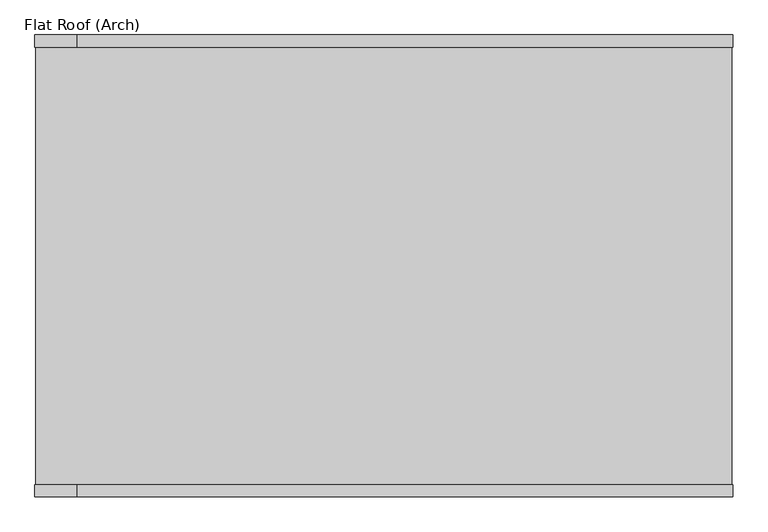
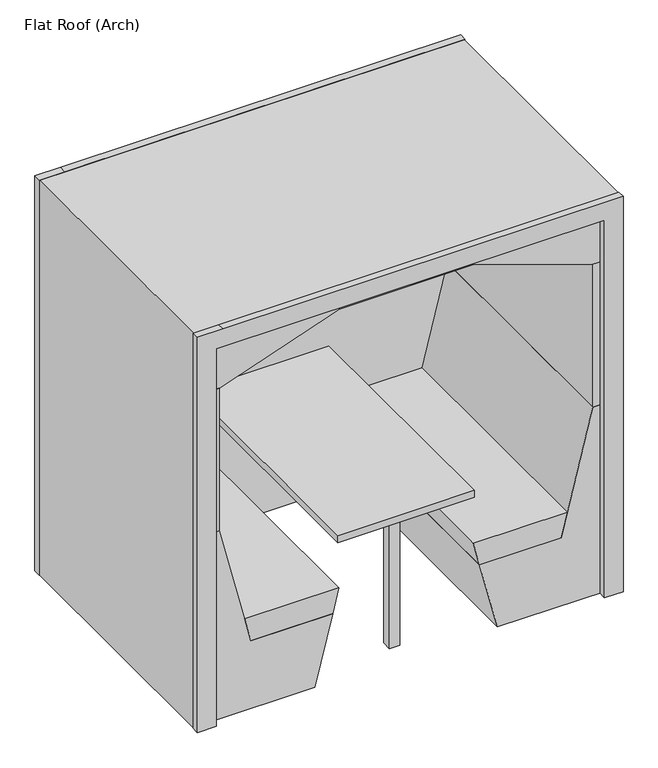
"""IFC4 building model written with IfcOpenShell, lengths in millimetres: furniture geometry, Furniture_WorkPod_Spacestor_RailwayCarriage : Flat Roof (Arch)."""

from ifc_helpers import new_model, si_unit, point, frame, frame_2d, origin, origin_with_axes, place, context, project, spatial, polyline, circle_curve, trimmed, segment, composite_curve, outline, extrude, source, transform, mapped, element, save


def flat_roof_arch_354ff4fe(model_context):
    return source(origin(), model_context, "Body", "SweptSolid", [
        extrude(outline(composite_curve([segment(trimmed(circle_curve(frame_2d((988.5, -1002.0)), 15.0), [point((973.5, -1002.0))], [point((1003.5, -1002.0))], False, "CARTESIAN"), True, "CONTINUOUS"), segment(trimmed(circle_curve(frame_2d((988.5, -1002.0)), 15.0), [point((1003.5, -1002.0))], [point((973.5, -1002.0))], False, "CARTESIAN"), True, "CONTINUOUS")], self_intersect=False)), origin_with_axes(), (0.0, 0.0, 1.0), 15.0),
        extrude(outline(composite_curve([segment(trimmed(circle_curve(frame_2d((-988.5, -1002.0)), 15.0), [point((-1003.5, -1002.0))], [point((-973.5, -1002.0))], False, "CARTESIAN"), True, "CONTINUOUS"), segment(trimmed(circle_curve(frame_2d((-988.5, -1002.0)), 15.0), [point((-973.5, -1002.0))], [point((-1003.5, -1002.0))], False, "CARTESIAN"), True, "CONTINUOUS")], self_intersect=False)), origin_with_axes(), (0.0, 0.0, 1.0), 15.0),
        extrude(outline(composite_curve([segment(trimmed(circle_curve(frame_2d((988.5, -167.0)), 15.0), [point((973.5, -167.0))], [point((1003.5, -167.0))], False, "CARTESIAN"), True, "CONTINUOUS"), segment(trimmed(circle_curve(frame_2d((988.5, -167.0)), 15.0), [point((1003.5, -167.0))], [point((973.5, -167.0))], False, "CARTESIAN"), True, "CONTINUOUS")], self_intersect=False)), origin_with_axes(), (0.0, 0.0, 1.0), 15.0),
        extrude(outline(composite_curve([segment(trimmed(circle_curve(frame_2d((-988.5, -167.0)), 15.0), [point((-1003.5, -167.0))], [point((-973.5, -167.0))], False, "CARTESIAN"), True, "CONTINUOUS"), segment(trimmed(circle_curve(frame_2d((-988.5, -167.0)), 15.0), [point((-973.5, -167.0))], [point((-1003.5, -167.0))], False, "CARTESIAN"), True, "CONTINUOUS")], self_intersect=False)), origin_with_axes(), (0.0, 0.0, 1.0), 15.0),
        extrude(outline(polyline([(3.0, 940.0), (3.0, 1030.0), (2025.0, 1030.0), (2025.0, -905.5), (2025.0, -1030.0), (3.0, -1030.0), (3.0, -940.0), (1935.0, -940.0), (1935.0, 940.0), (3.0, 940.0)])), frame((0.0, 61.0, 0.0), z_axis=(0.0, 1.0, 0.0), x_axis=(0.0, 0.0, 1.0)), (0.0, 0.0, 1.0), 36.0),
        extrude(outline(polyline([(3.0, 940.0), (3.0, 1030.0), (2025.0, 1030.0), (2025.0, -905.5), (2025.0, -1030.0), (3.0, -1030.0), (3.0, -940.0), (1935.0, -940.0), (1935.0, 940.0), (3.0, 940.0)])), frame((0.0, -1266.0, 0.0), z_axis=(0.0, 1.0, 0.0), x_axis=(0.0, 0.0, 1.0)), (0.0, 0.0, 1.0), 36.0),
        extrude(outline(polyline([(323.7167545, -1230.0), (-323.7167545, -1230.0), (-323.7167545, 0.0), (323.7167545, 0.0), (323.7167545, -1230.0)])), frame((0.0, 0.0, 1899.6), z_axis=(0.0, 0.0, 1.0), x_axis=(1.0, 0.0, 0.0)), (0.0, 0.0, 1.0), 62.0),
        extrude(outline(polyline([(-904.5, -1230.0), (-966.5, -1230.0), (-966.5, 0.0), (-904.5, 0.0), (-904.5, -1230.0)])), frame((0.0, 0.0, 969.0), z_axis=(0.0, 0.0, 1.0), x_axis=(1.0, 0.0, 0.0)), (0.0, 0.0, 1.0), 730.62),
        extrude(outline(polyline([(966.5, -1230.0), (904.5, -1230.0), (904.5, 0.0), (966.5, 0.0), (966.5, -1230.0)])), frame((0.0, 0.0, 969.0), z_axis=(0.0, 0.0, 1.0), x_axis=(1.0, 0.0, 0.0)), (0.0, 0.0, 1.0), 730.62),
        extrude(outline(polyline([(1699.62, -966.5), (1699.62, -904.5), (1899.5997087, -323.7167545), (1961.6, -323.7167545), (1961.6, -966.5), (1699.62, -966.5)])), frame((0.0, -1230.0, 0.0), z_axis=(0.0, 1.0, 0.0), x_axis=(0.0, 0.0, 1.0)), (0.0, 0.0, 1.0), 1230.0),
        extrude(outline(polyline([(1699.62, 966.5), (1961.6, 966.5), (1961.6, 323.7167545), (1899.5997087, 323.7167545), (1699.62, 904.5), (1699.62, 966.5)])), frame((0.0, -1230.0, 0.0), z_axis=(0.0, 1.0, 0.0), x_axis=(0.0, 0.0, 1.0)), (0.0, 0.0, 1.0), 1230.0),
        extrude(outline(polyline([(354.0, -750.5348655), (354.0, -355.6348655), (475.0, -325.4661771), (475.0, -780.6245423), (354.0, -750.5348655)])), frame((0.0, -1230.0, 0.0), z_axis=(0.0, 1.0, 0.0), x_axis=(0.0, 0.0, 1.0)), (0.0, 0.0, 1.0), 1230.0),
        extrude(outline(polyline([(354.0, 750.5348655), (475.0, 780.6245423), (475.0, 325.4661771), (354.0, 355.6348655), (354.0, 750.5348655)])), frame((0.0, -1230.0, 0.0), z_axis=(0.0, 1.0, 0.0), x_axis=(0.0, 0.0, 1.0)), (0.0, 0.0, 1.0), 1230.0),
        extrude(outline(polyline([(969.0, -903.47), (969.0, -967.0), (6.0, -967.0), (6.0, -442.4010105), (354.0, -355.6348655), (354.0, -750.5348655), (969.0, -903.47)])), frame((0.0, -1230.0, 0.0), z_axis=(0.0, 1.0, 0.0), x_axis=(0.0, 0.0, 1.0)), (0.0, 0.0, 1.0), 1230.0),
        extrude(outline(polyline([(969.0, 903.47), (354.0, 750.5348655), (354.0, 355.6348655), (6.0, 442.4010105), (6.0, 967.0), (969.0, 967.0), (969.0, 903.47)])), frame((0.0, -1230.0, 0.0), z_axis=(0.0, 1.0, 0.0), x_axis=(0.0, 0.0, 1.0)), (0.0, 0.0, 1.0), 1230.0),
        extrude(outline(polyline([(25.0, -1085.0), (25.0, -1135.0), (-25.0, -1135.0), (-25.0, -1085.0), (25.0, -1085.0)])), frame((0.0, 0.0, 1.5), z_axis=(0.0, 0.0, 1.0), x_axis=(1.0, 0.0, 0.0)), (0.0, 0.0, 1.0), 705.0),
        extrude(outline(polyline([(330.0, 0.0), (330.0, -1230.0), (-330.0, -1230.0), (-330.0, 0.0), (330.0, 0.0)])), frame((0.0, 0.0, 708.0), z_axis=(0.0, 0.0, 1.0), x_axis=(1.0, 0.0, 0.0)), (0.0, 0.0, 1.0), 36.0),
        extrude(outline(polyline([(940.0, 61.0), (-940.0, 61.0), (-940.0, 79.0), (940.0, 79.0), (940.0, 61.0)])), frame((0.0, 0.0, 3.0), z_axis=(0.0, 0.0, 1.0), x_axis=(1.0, 0.0, 0.0)), (0.0, 0.0, 1.0), 1932.0),
        extrude(outline(polyline([(-967.5, 6.0), (967.5, 6.0), (967.5, -12.0), (-967.5, -12.0), (-967.5, 6.0)])), frame((0.0, 0.0, 3.0), z_axis=(0.0, 0.0, 1.0), x_axis=(1.0, 0.0, 0.0)), (0.0, 0.0, 1.0), 966.0),
        extrude(outline(polyline([(-967.5, 6.0), (967.5, 6.0), (967.5, -12.0), (-967.5, -12.0), (-967.5, 6.0)])), frame((0.0, 0.0, 969.0), z_axis=(0.0, 0.0, 1.0), x_axis=(1.0, 0.0, 0.0)), (0.0, 0.0, 1.0), 999.6238267),
        extrude(outline(polyline([(2005.0, 1010.0), (3.0, 1010.0), (3.0, 1028.0), (2023.0, 1028.0), (2023.0, -1028.0), (3.0, -1028.0), (3.0, -1010.0), (2005.0, -1010.0), (2005.0, 1010.0)])), frame((0.0, -1230.0, 0.0), z_axis=(0.0, 1.0, 0.0), x_axis=(0.0, 0.0, 1.0)), (0.0, 0.0, 1.0), 1291.0),
    ])


if __name__ == "__main__":
    model = new_model("IFC4")
    model_context = context("Model", 3, world=origin())
    ifc_project = project(units=[si_unit("LENGTHUNIT", "METRE", prefix="MILLI")], contexts=[model_context])
    site = spatial("IfcSite", under=ifc_project)
    building = spatial("IfcBuilding", under=site)
    placement = place(None, origin())
    flat_roof_arch_shape = flat_roof_arch_354ff4fe(model_context)
    element("IfcFurniture", 1, ObjectType="Furniture_WorkPod_Spacestor_RailwayCarriage : Flat Roof (Arch)", at=placement, inside=building, context=model_context, shape_type="MappedRepresentation", body=[
        mapped(flat_roof_arch_shape, transform((0.0, 0.0, 0.0), x_axis=(1.0, 0.0, 0.0), y_axis=(0.0, 1.0, 0.0), z_axis=(0.0, 0.0, 1.0))),
    ])
    save(model, "model.ifc")
